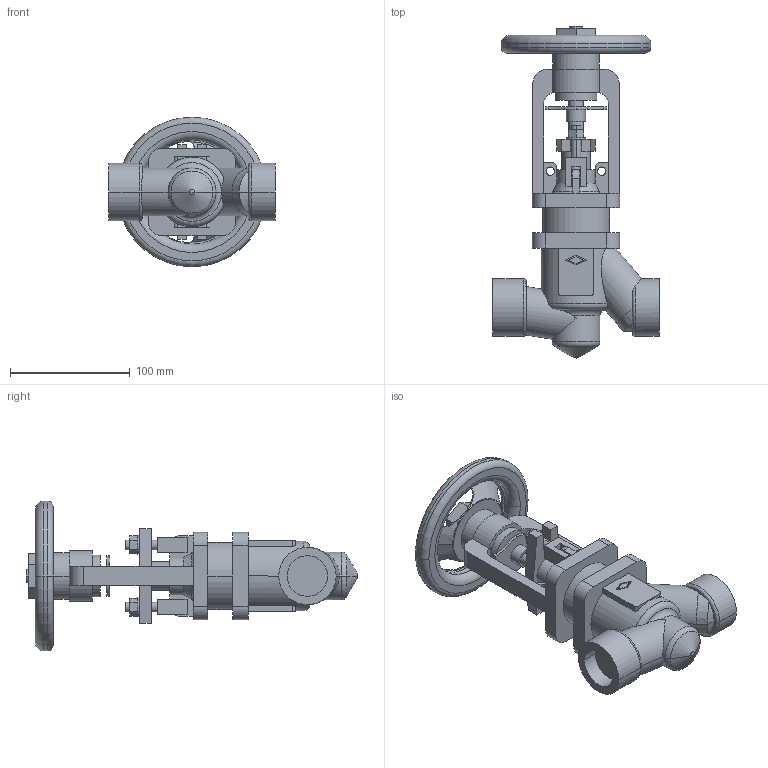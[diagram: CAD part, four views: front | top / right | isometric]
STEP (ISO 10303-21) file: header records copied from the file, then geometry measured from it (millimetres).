
FILE_DESCRIPTION(('OneSpaceDesigner STEP Export'),'2;1');
FILE_NAME('c000004267.stp','2010-05-04T10:46:03',(''),(''),'OneSpace Designer STEP processor for AP214 (Solid Model)','OneSpace Modeling 15.50B 03-Nov-2007 (C) CoCreate Software GmbH','');
FILE_SCHEMA(('AUTOMOTIVE_DESIGN { 1 0 10303 214 1 1 1 1 }'));
Length unit declared in the file: millimetre
Products named in the file (1): 1
Bounding box: 139 x 277.23 x 125 mm (x, y, z)
Volume: 758503.7 mm3; surface area: 125249 mm2
Topology: 1 solids, 1 shells, 284 faces, 757 edges, 494 vertices
Faces by surface type: plane 143, cylinder 99, torus 24, cone 16, sphere 2
Entity records: 11477 total; most frequent: CARTESIAN_POINT 2360, ORIENTED_EDGE 1514, DIRECTION 1305, EDGE_CURVE 757, VERTEX_POINT 494, AXIS2_PLACEMENT_3D 445, VECTOR 415, LINE 415
